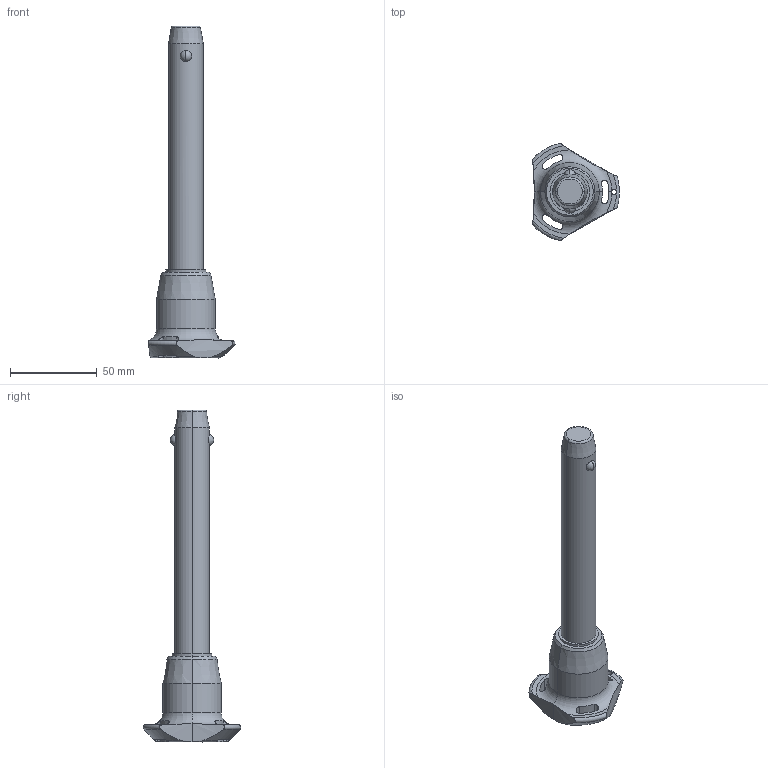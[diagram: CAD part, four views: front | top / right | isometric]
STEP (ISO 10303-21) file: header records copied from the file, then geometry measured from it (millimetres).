
FILE_DESCRIPTION (( 'STEP AP203' ), '1' );
FILE_NAME ('QR1714.M20-120-S.step', '2025-11-12T10:29:33', ( '' ), ( '' ), 'SwSTEP 2.0', 'SolidWorks 2019', '' );
FILE_SCHEMA (( 'CONFIG_CONTROL_DESIGN' ));
Length unit declared in the file: millimetre
Products named in the file (1): QR1714.M20-120-S
Bounding box: 50.04 x 56.02 x 191.2 mm (x, y, z)
Volume: 91476.1 mm3; surface area: 18507.1 mm2
Topology: 1 solids, 1 shells, 65 faces, 176 edges, 111 vertices
Faces by surface type: cylinder 30, cone 14, torus 11, sphere 6, plane 4
Entity records: 2858 total; most frequent: CARTESIAN_POINT 1179, ORIENTED_EDGE 352, DIRECTION 329, EDGE_CURVE 176, AXIS2_PLACEMENT_3D 147, VERTEX_POINT 111, CIRCLE 81, EDGE_LOOP 71
